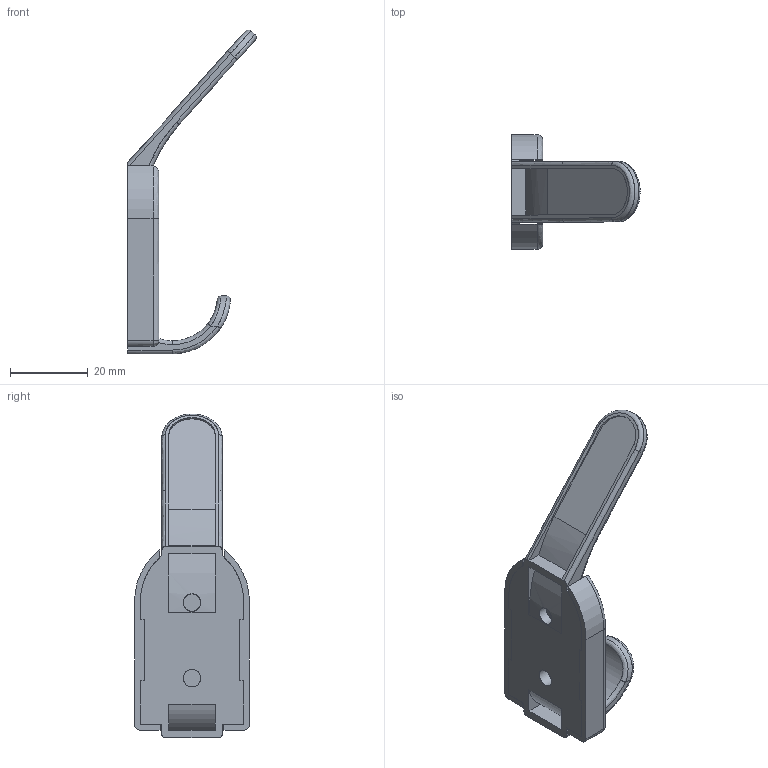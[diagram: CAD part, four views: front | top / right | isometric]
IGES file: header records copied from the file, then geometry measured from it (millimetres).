
Start section: C
Global section: file name: 021-85.igs; native system: By Siemens PLM Incorporated; preprocessor: XPlus GENERIC/IGES 16.0.42; author: Author; organization: Title; date: 20231129.110705; units: millimetre
Bounding box: 33.12 x 29.6 x 83.56 mm (x, y, z)
Surface area: 9906.4 mm2 (no closed solid volume)
Topology: 0 solids, 0 shells, 136 faces, 702 edges, 700 vertices
Faces by surface type: bspline 136
